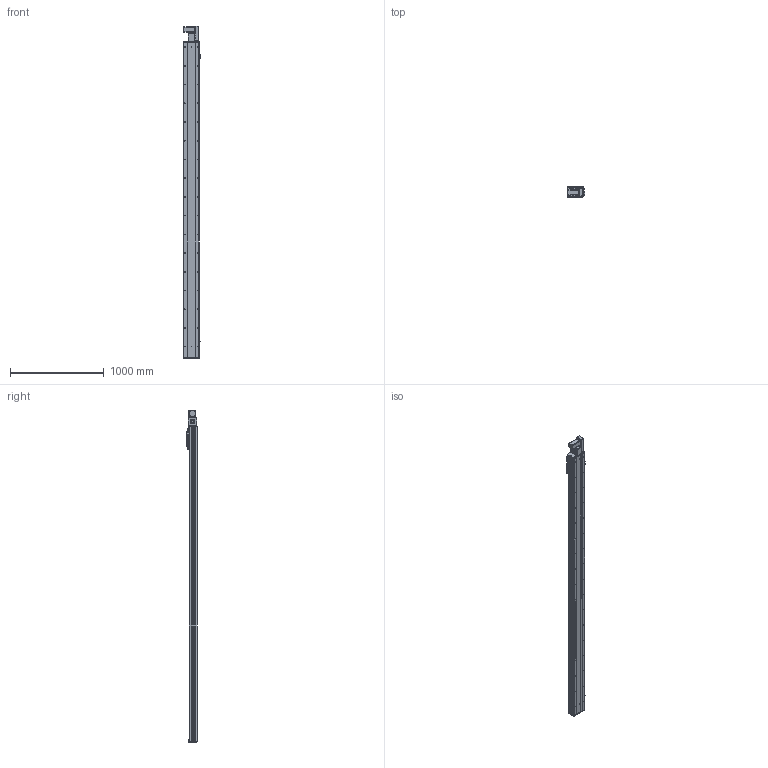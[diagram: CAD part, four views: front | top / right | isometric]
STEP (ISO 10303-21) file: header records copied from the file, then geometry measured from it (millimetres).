
FILE_DESCRIPTION (( 'STEP AP203' ), '1' );
FILE_NAME ('Y170CB-D105-S3050-BR-P400W.STEP', '2020-02-20T00:54:24', ( '微软用户' ), ( '微软中国' ), 'SwSTEP 2.0', 'SolidWorks 2017', '' );
FILE_SCHEMA (( 'CONFIG_CONTROL_DESIGN' ));
Length unit declared in the file: millimetre
Products named in the file (17): Y170CB-D105-S3050-BR-P400W; 70CB-耜裔啣-; 70B喘謫眊----; 70C--詩湍揤踡え-; B-源倛裔啣; 70CB--耜裔; 17B-耜蚾蟀諉啣----; 70C-雄赽釱-奻-; 0B-萇儂楊擘啣; 0C--雄赽釱俋欶-170; san松下电机400不带刹车----; 70CB-詩湍--; Y70俋欶BR----; Y100-135俋离換覜ん--; 70CB-掛极-; Y170CB-陔俋离換覜結え---; --70CB --喘謫眊楊擘啣-
Assembly tree (20 placements, depth 2):
  Y170CB-D105-S3050-BR-P400W
    70B喘謫眊----
    B-源倛裔啣
    17B-耜蚾蟀諉啣----
    0B-萇儂楊擘啣
    san松下电机400不带刹车----
    Y70俋欶BR----
    70CB-掛极-
    --70CB --喘謫眊楊擘啣-
    70CB-耜裔啣-  x2
    70C--詩湍揤踡え-  x2
    70CB--耜裔
    70C-雄赽釱-奻-
    0C--雄赽釱俋欶-170
    70CB-詩湍--
    Y100-135俋离換覜ん--  x3
    Y170CB-陔俋离換覜結え---
Bounding box: 183.5 x 107 x 3547 mm (x, y, z)
Volume: 14604265.7 mm3; surface area: 5272498.5 mm2
Topology: 20 solids, 20 shells, 1073 faces, 2897 edges, 1922 vertices
Faces by surface type: cylinder 587, plane 462, cone 24
Entity records: 34379 total; most frequent: CARTESIAN_POINT 6381, DIRECTION 5596, ORIENTED_EDGE 5276, EDGE_CURVE 2638, AXIS2_PLACEMENT_3D 2065, VERTEX_POINT 1752, LINE 1466, VECTOR 1466
